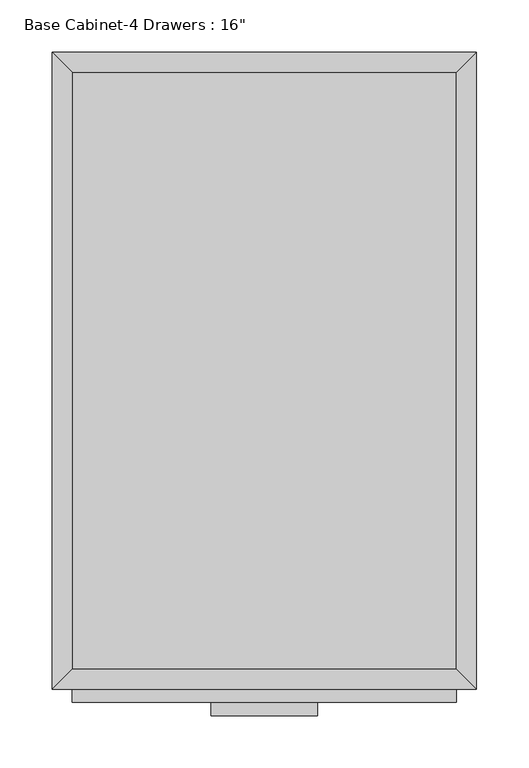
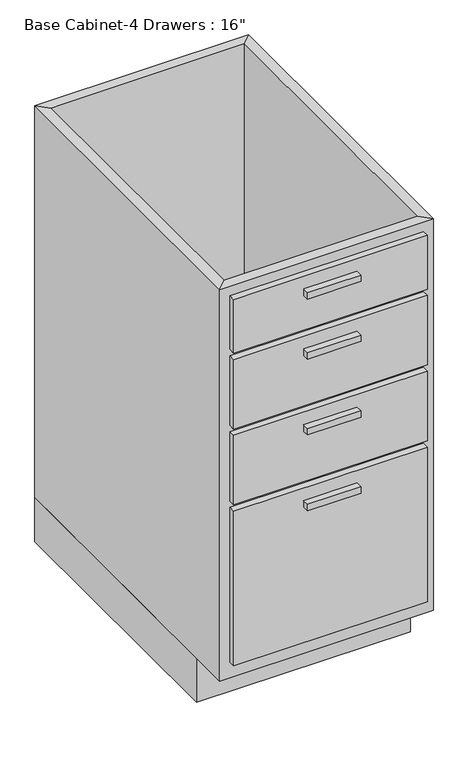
"""IFC4 building model written with IfcOpenShell, lengths in millimetres: furniture geometry."""

from ifc_helpers import new_model, si_unit, frame, origin, origin_with_axes, place, context, project, spatial, polyline, outline, extrude, faceted_brep, source, transform, mapped, element, save


def furniture_048c9636(model_context):
    return source(origin(), model_context, "Body", "SolidModel", [
        extrude(outline(polyline([(69.5377049, -635.0), (-32.0622951, -635.0), (-32.0622951, -622.3), (69.5377049, -622.3), (69.5377049, -635.0)])), frame((0.0, 0.0, 819.15), z_axis=(0.0, 0.0, 1.0), x_axis=(1.0, 0.0, 0.0)), (0.0, 0.0, 1.0), 12.7),
        extrude(outline(polyline([(69.5377049, -635.0), (-32.0622951, -635.0), (-32.0622951, -622.3), (69.5377049, -622.3), (69.5377049, -635.0)])), frame((0.0, 0.0, 698.5), z_axis=(0.0, 0.0, 1.0), x_axis=(1.0, 0.0, 0.0)), (0.0, 0.0, 1.0), 12.7),
        extrude(outline(polyline([(69.5377049, -635.0), (-32.0622951, -635.0), (-32.0622951, -622.3), (69.5377049, -622.3), (69.5377049, -635.0)])), frame((0.0, 0.0, 546.1), z_axis=(0.0, 0.0, 1.0), x_axis=(1.0, 0.0, 0.0)), (0.0, 0.0, 1.0), 12.7),
        extrude(outline(polyline([(69.5377049, -635.0), (-32.0622951, -635.0), (-32.0622951, -622.3), (69.5377049, -622.3), (69.5377049, -635.0)])), frame((0.0, 0.0, 393.7), z_axis=(0.0, 0.0, 1.0), x_axis=(1.0, 0.0, 0.0)), (0.0, 0.0, 1.0), 12.7),
        extrude(outline(polyline([(202.8877049, -622.3), (-165.4122951, -622.3), (-165.4122951, -609.6), (202.8877049, -609.6), (202.8877049, -622.3)])), frame((0.0, 0.0, 749.3), z_axis=(0.0, 0.0, 1.0), x_axis=(1.0, 0.0, 0.0)), (0.0, 0.0, 1.0), 107.95),
        extrude(outline(polyline([(202.8877049, -622.3), (-165.4122951, -622.3), (-165.4122951, -609.6), (202.8877049, -609.6), (202.8877049, -622.3)])), frame((0.0, 0.0, 596.9), z_axis=(0.0, 0.0, 1.0), x_axis=(1.0, 0.0, 0.0)), (0.0, 0.0, 1.0), 139.7),
        extrude(outline(polyline([(202.8877049, -622.3), (-165.4122951, -622.3), (-165.4122951, -609.6), (202.8877049, -609.6), (202.8877049, -622.3)])), frame((0.0, 0.0, 444.5), z_axis=(0.0, 0.0, 1.0), x_axis=(1.0, 0.0, 0.0)), (0.0, 0.0, 1.0), 139.7),
        extrude(outline(polyline([(202.8877049, -622.3), (-165.4122951, -622.3), (-165.4122951, -609.6), (202.8877049, -609.6), (202.8877049, -622.3)])), frame((0.0, 0.0, 120.65), z_axis=(0.0, 0.0, 1.0), x_axis=(1.0, 0.0, 0.0)), (0.0, 0.0, 1.0), 311.15),
        extrude(outline(polyline([(202.8877049, -19.05), (202.8877049, -590.55), (-165.4122951, -590.55), (-165.4122951, -19.05), (202.8877049, -19.05)])), frame((0.0, 0.0, 88.9), z_axis=(0.0, 0.0, 1.0), x_axis=(1.0, 0.0, 0.0)), (0.0, 0.0, 1.0), 19.05),
        faceted_brep([(202.8877049, -590.55, 876.3), (202.8877049, -590.55, 88.9), (-165.4122951, -590.55, 88.9), (-165.4122951, -590.55, 876.3), (221.9377049, -609.6, 876.3), (-184.4622951, -609.6, 876.3), (221.9377049, -609.6, 88.9), (-184.4622951, -609.6, 88.9), (-165.4122951, -19.05, 88.9), (-165.4122951, -19.05, 876.3), (-184.4622951, 0.0, 876.3), (-184.4622951, 0.0, 88.9), (202.8877049, -19.05, 88.9), (202.8877049, -19.05, 876.3), (221.9377049, 0.0, 876.3), (221.9377049, 0.0, 88.9)], [[[0, 1, 2, 3]], [[4, 0, 3, 5]], [[6, 4, 5, 7]], [[1, 6, 7, 2]], [[3, 2, 8, 9]], [[5, 3, 9, 10]], [[7, 5, 10, 11]], [[2, 7, 11, 8]], [[9, 8, 12, 13]], [[10, 9, 13, 14]], [[11, 10, 14, 15]], [[8, 11, 15, 12]], [[13, 12, 1, 0]], [[14, 13, 0, 4]], [[15, 14, 4, 6]], [[12, 15, 6, 1]]]),
        extrude(outline(polyline([(221.9377049, 0.0), (221.9377049, -533.4), (-184.4622951, -533.4), (-184.4622951, 0.0), (221.9377049, 0.0)])), origin_with_axes(), (0.0, 0.0, 1.0), 88.9),
    ])


if __name__ == "__main__":
    model = new_model("IFC4")
    model_context = context("Model", 3, world=origin())
    ifc_project = project(units=[si_unit("LENGTHUNIT", "METRE", prefix="MILLI")], contexts=[model_context])
    site = spatial("IfcSite", under=ifc_project)
    building = spatial("IfcBuilding", under=site)
    placement = place(None, origin())
    furniture_shape = furniture_048c9636(model_context)
    element("IfcFurniture", 1, ObjectType="Base Cabinet-4 Drawers : 16\"", at=placement, inside=building, context=model_context, shape_type="MappedRepresentation", body=[
        mapped(furniture_shape, transform((0.0, 0.0, 0.0), x_axis=(1.0, 0.0, 0.0), y_axis=(0.0, 1.0, 0.0), z_axis=(0.0, 0.0, 1.0))),
    ])
    save(model, "model.ifc")
